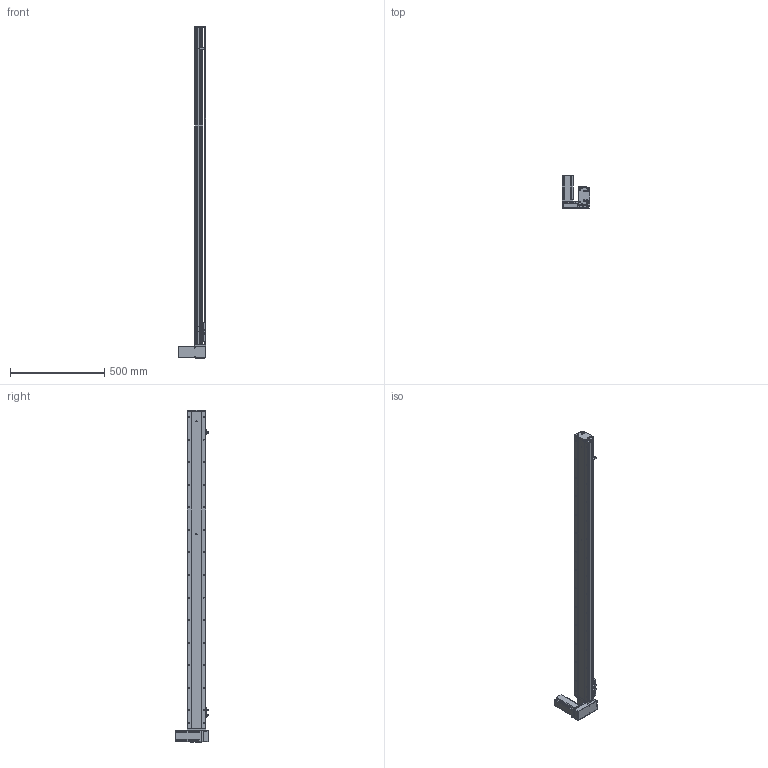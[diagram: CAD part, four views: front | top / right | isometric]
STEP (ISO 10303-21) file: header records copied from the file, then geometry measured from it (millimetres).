
FILE_DESCRIPTION (( 'STEP AP214' ), '1' );
FILE_NAME ('KSD100B-S1500-MRD-CM.STEP', '2019-10-16T08:13:32', ( '微软用户' ), ( '微软中国' ), 'SwSTEP 2.0', 'SolidWorks 2014', '' );
FILE_SCHEMA (( 'AUTOMOTIVE_DESIGN' ));
Length unit declared in the file: millimetre
Products named in the file (12): 100宽马达安装板同步带; 100遵傷啣肮祭湍; 100宽底板半封闭同步带1500行程; KSD100B-S1500-MRD-CM; 悵誘欶奻狟殏; 100宽马达安装板连板上下折丝杆同步带; 台达ECMA－C20604AS伺服电机; U倰嫖萇EEㄜSX672; 覜茼え100遵圉猾敕; 100宽防尘板1500行程-同步带; 100宽马达安装板同步带右; 100宽同步带安装板半封闭
Assembly tree (13 placements, depth 2):
  KSD100B-S1500-MRD-CM
    100宽底板半封闭同步带1500行程
    100遵傷啣肮祭湍
    100宽马达安装板同步带
    100宽同步带安装板半封闭
    100宽马达安装板同步带右
    100宽防尘板1500行程-同步带
    覜茼え100遵圉猾敕
    U倰嫖萇EEㄜSX672  x3
    台达ECMA－C20604AS伺服电机
    100宽马达安装板连板上下折丝杆同步带
    悵誘欶奻狟殏
Bounding box: 148 x 174.7 x 1765 mm (x, y, z)
Volume: 3752233.8 mm3; surface area: 1274902.4 mm2
Topology: 14 solids, 14 shells, 1623 faces, 4602 edges, 2907 vertices
Faces by surface type: cylinder 841, plane 611, cone 171
Entity records: 59327 total; most frequent: CARTESIAN_POINT 12562, DIRECTION 8018, ORIENTED_EDGE 7768, EDGE_CURVE 3884, AXIS2_PLACEMENT_3D 2949, VERTEX_POINT 2531, VECTOR 2120, LINE 2120
